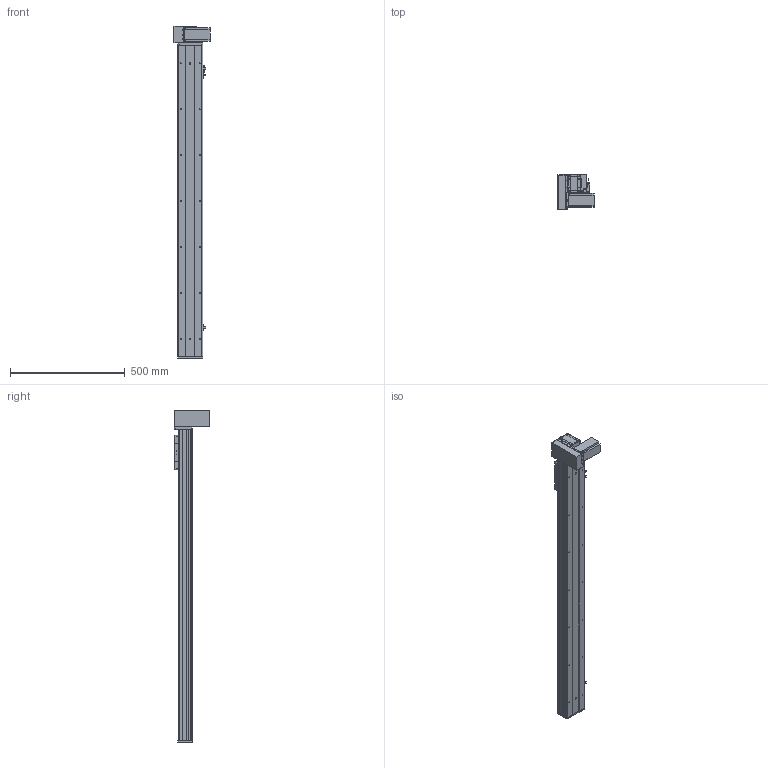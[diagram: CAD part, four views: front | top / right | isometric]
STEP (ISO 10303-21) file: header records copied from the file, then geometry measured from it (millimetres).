
FILE_DESCRIPTION (( 'STEP AP203' ), '1' );
FILE_NAME ('Y10CB-D90-S1100-BM-P400W.STEP', '2020-02-16T09:04:04', ( '微软用户' ), ( '微软中国' ), 'SwSTEP 2.0', 'SolidWorks 2017', '' );
FILE_SCHEMA (( 'CONFIG_CONTROL_DESIGN' ));
Length unit declared in the file: millimetre
Products named in the file (18): 10CB-耜裔; 0B-源倛裔啣; Y135C-陔俋离換覜結え-; 0B-埴倛裔啣; Y100-135俋离換覜ん--; 10CB-詩湍-; Y10B--々湍喘謫眊--666; Y10CB- 掛极耜裔啣-毀---; 0CB-雄赽釱---; 00B-俋欶BM--; Y10C---詩湍揤啣; 0Cb-俋欶---; Y10B-耜蚾蟀諉啣----; Y10B-々湍喘謫眊楊擘啣--; Y10CB-D90-S1100-BM-P400W; 0B-萇儂楊擘啣; 10CB9-掛极; san松下电机400不带刹车----
Assembly tree (21 placements, depth 2):
  Y10CB-D90-S1100-BM-P400W
    0CB-雄赽釱---
    0Cb-俋欶---
    Y10B-々湍喘謫眊楊擘啣--
    0B-萇儂楊擘啣
    san松下电机400不带刹车----
    0B-源倛裔啣
    0B-埴倛裔啣
    10CB-詩湍-
    Y10CB- 掛极耜裔啣-毀---  x2
    Y10C---詩湍揤啣  x2
    10CB9-掛极
    10CB-耜裔
    Y135C-陔俋离換覜結え-
    Y100-135俋离換覜ん--  x3
    Y10B--々湍喘謫眊--666
    00B-俋欶BM--
    Y10B-耜蚾蟀諉啣----
Bounding box: 157 x 156 x 1446 mm (x, y, z)
Volume: 3310564.3 mm3; surface area: 1499482.2 mm2
Topology: 21 solids, 21 shells, 990 faces, 2643 edges, 1730 vertices
Faces by surface type: cylinder 489, plane 477, cone 24
Entity records: 30912 total; most frequent: CARTESIAN_POINT 5469, DIRECTION 4998, ORIENTED_EDGE 4756, EDGE_CURVE 2378, AXIS2_PLACEMENT_3D 1789, VERTEX_POINT 1556, LINE 1420, VECTOR 1420
